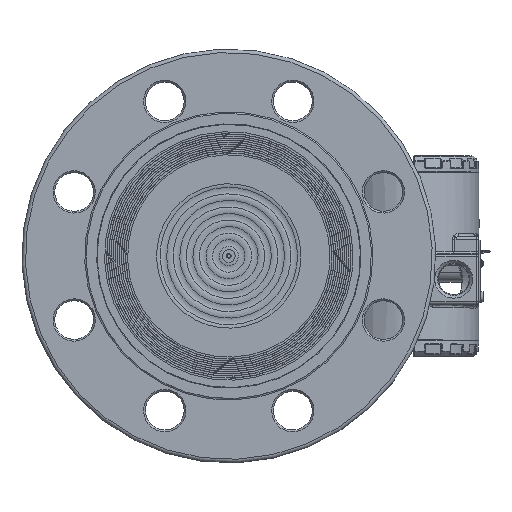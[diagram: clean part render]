
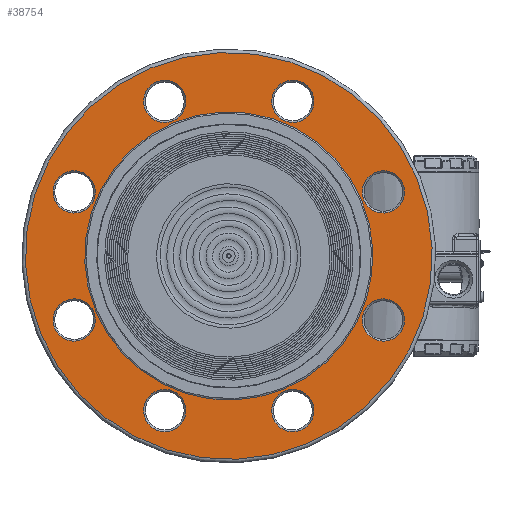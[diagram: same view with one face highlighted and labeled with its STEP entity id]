
A CAD part, top view. The second image highlights one B-rep face of the part: STEP entity #38754.
In plain terms, the highlighted planar face has unit normal (0, 0, 1) as drawn and (-1, 0, 0) by its records, which use the part's own axes.
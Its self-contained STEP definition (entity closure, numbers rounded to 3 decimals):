
#753=FACE_BOUND('',#6589,.T.);
#754=FACE_BOUND('',#6590,.T.);
#755=FACE_BOUND('',#6591,.T.);
#756=FACE_BOUND('',#6592,.T.);
#757=FACE_BOUND('',#6593,.T.);
#758=FACE_BOUND('',#6594,.T.);
#759=FACE_BOUND('',#6595,.T.);
#760=FACE_BOUND('',#6596,.T.);
#761=FACE_BOUND('',#6597,.T.);
#2735=PLANE('',#43057);
#3944=FACE_OUTER_BOUND('',#6588,.T.);
#6588=EDGE_LOOP('',(#29630,#29631));
#6589=EDGE_LOOP('',(#29632));
#6590=EDGE_LOOP('',(#29633));
#6591=EDGE_LOOP('',(#29634));
#6592=EDGE_LOOP('',(#29635));
#6593=EDGE_LOOP('',(#29636,#29637));
#6594=EDGE_LOOP('',(#29638));
#6595=EDGE_LOOP('',(#29639));
#6596=EDGE_LOOP('',(#29640));
#6597=EDGE_LOOP('',(#29641));
#12424=CIRCLE('',#43056,12.);
#12425=CIRCLE('',#43058,115.5);
#12426=CIRCLE('',#43059,115.5);
#12427=CIRCLE('',#43060,12.);
#12428=CIRCLE('',#43061,12.);
#12429=CIRCLE('',#43062,12.);
#12430=CIRCLE('',#43063,12.);
#12431=CIRCLE('',#43064,81.8);
#12432=CIRCLE('',#43065,81.8);
#12433=CIRCLE('',#43066,12.);
#12434=CIRCLE('',#43067,12.);
#12435=CIRCLE('',#43068,12.);
#16915=VERTEX_POINT('',#69073);
#16916=VERTEX_POINT('',#69077);
#16917=VERTEX_POINT('',#69078);
#16918=VERTEX_POINT('',#69081);
#16919=VERTEX_POINT('',#69083);
#16920=VERTEX_POINT('',#69085);
#16921=VERTEX_POINT('',#69087);
#16922=VERTEX_POINT('',#69089);
#16923=VERTEX_POINT('',#69090);
#16924=VERTEX_POINT('',#69093);
#16925=VERTEX_POINT('',#69095);
#16926=VERTEX_POINT('',#69097);
#21394=EDGE_CURVE('',#16915,#16915,#12424,.T.);
#21396=EDGE_CURVE('',#16916,#16917,#12425,.T.);
#21397=EDGE_CURVE('',#16917,#16916,#12426,.T.);
#21398=EDGE_CURVE('',#16918,#16918,#12427,.T.);
#21399=EDGE_CURVE('',#16919,#16919,#12428,.T.);
#21400=EDGE_CURVE('',#16920,#16920,#12429,.T.);
#21401=EDGE_CURVE('',#16921,#16921,#12430,.T.);
#21402=EDGE_CURVE('',#16922,#16923,#12431,.T.);
#21403=EDGE_CURVE('',#16923,#16922,#12432,.T.);
#21404=EDGE_CURVE('',#16924,#16924,#12433,.T.);
#21405=EDGE_CURVE('',#16925,#16925,#12434,.T.);
#21406=EDGE_CURVE('',#16926,#16926,#12435,.T.);
#29630=ORIENTED_EDGE('',*,*,#21396,.F.);
#29631=ORIENTED_EDGE('',*,*,#21397,.F.);
#29632=ORIENTED_EDGE('',*,*,#21398,.F.);
#29633=ORIENTED_EDGE('',*,*,#21399,.F.);
#29634=ORIENTED_EDGE('',*,*,#21400,.F.);
#29635=ORIENTED_EDGE('',*,*,#21401,.F.);
#29636=ORIENTED_EDGE('',*,*,#21402,.T.);
#29637=ORIENTED_EDGE('',*,*,#21403,.T.);
#29638=ORIENTED_EDGE('',*,*,#21404,.F.);
#29639=ORIENTED_EDGE('',*,*,#21405,.F.);
#29640=ORIENTED_EDGE('',*,*,#21406,.F.);
#29641=ORIENTED_EDGE('',*,*,#21394,.F.);
#38754=ADVANCED_FACE('',(#3944,#753,#754,#755,#756,#757,#758,#759,#760,
#761),#2735,.T.);
#43056=AXIS2_PLACEMENT_3D('',#69074,#50989,#50990);
#43057=AXIS2_PLACEMENT_3D('',#69076,#50992,#50993);
#43058=AXIS2_PLACEMENT_3D('',#69079,#50994,#50995);
#43059=AXIS2_PLACEMENT_3D('',#69080,#50996,#50997);
#43060=AXIS2_PLACEMENT_3D('',#69082,#50998,#50999);
#43061=AXIS2_PLACEMENT_3D('',#69084,#51000,#51001);
#43062=AXIS2_PLACEMENT_3D('',#69086,#51002,#51003);
#43063=AXIS2_PLACEMENT_3D('',#69088,#51004,#51005);
#43064=AXIS2_PLACEMENT_3D('',#69091,#51006,#51007);
#43065=AXIS2_PLACEMENT_3D('',#69092,#51008,#51009);
#43066=AXIS2_PLACEMENT_3D('',#69094,#51010,#51011);
#43067=AXIS2_PLACEMENT_3D('',#69096,#51012,#51013);
#43068=AXIS2_PLACEMENT_3D('',#69098,#51014,#51015);
#50989=DIRECTION('center_axis',(-1.,0.,0.));
#50990=DIRECTION('ref_axis',(0.,-0.707,-0.707));
#50992=DIRECTION('center_axis',(-1.,0.,0.));
#50993=DIRECTION('ref_axis',(0.,0.,1.));
#50994=DIRECTION('center_axis',(1.,0.,0.));
#50995=DIRECTION('ref_axis',(0.,1.,0.));
#50996=DIRECTION('center_axis',(1.,0.,0.));
#50997=DIRECTION('ref_axis',(0.,1.,0.));
#50998=DIRECTION('center_axis',(-1.,0.,0.));
#50999=DIRECTION('ref_axis',(0.,-1.,0.));
#51000=DIRECTION('center_axis',(-1.,0.,0.));
#51001=DIRECTION('ref_axis',(0.,0.,1.));
#51002=DIRECTION('center_axis',(-1.,0.,0.));
#51003=DIRECTION('ref_axis',(0.,1.,0.));
#51004=DIRECTION('center_axis',(-1.,0.,0.));
#51005=DIRECTION('ref_axis',(0.,0.,-1.));
#51006=DIRECTION('center_axis',(1.,0.,0.));
#51007=DIRECTION('ref_axis',(0.,1.,0.));
#51008=DIRECTION('center_axis',(1.,0.,0.));
#51009=DIRECTION('ref_axis',(0.,1.,0.));
#51010=DIRECTION('center_axis',(-1.,0.,0.));
#51011=DIRECTION('ref_axis',(0.,0.707,-0.707));
#51012=DIRECTION('center_axis',(-1.,0.,0.));
#51013=DIRECTION('ref_axis',(0.,0.707,0.707));
#51014=DIRECTION('center_axis',(-1.,0.,0.));
#51015=DIRECTION('ref_axis',(0.,-0.707,0.707));
#69073=CARTESIAN_POINT('',(3.,75.66,75.66));
#69074=CARTESIAN_POINT('Origin',(3.,67.175,67.175));
#69076=CARTESIAN_POINT('Origin',(3.,98.65,0.));
#69077=CARTESIAN_POINT('',(3.,115.5,0.));
#69078=CARTESIAN_POINT('',(3.,0.,115.5));
#69079=CARTESIAN_POINT('Origin',(3.,0.,0.));
#69080=CARTESIAN_POINT('Origin',(3.,0.,0.));
#69081=CARTESIAN_POINT('',(3.,107.,0.));
#69082=CARTESIAN_POINT('Origin',(3.,95.,0.));
#69083=CARTESIAN_POINT('',(3.,0.,-107.));
#69084=CARTESIAN_POINT('Origin',(3.,0.,-95.));
#69085=CARTESIAN_POINT('',(3.,-107.,0.));
#69086=CARTESIAN_POINT('Origin',(3.,-95.,0.));
#69087=CARTESIAN_POINT('',(3.,0.,107.));
#69088=CARTESIAN_POINT('Origin',(3.,0.,95.));
#69089=CARTESIAN_POINT('',(3.,81.8,0.));
#69090=CARTESIAN_POINT('',(3.,0.,81.8));
#69091=CARTESIAN_POINT('Origin',(3.,0.,0.));
#69092=CARTESIAN_POINT('Origin',(3.,0.,0.));
#69093=CARTESIAN_POINT('',(3.,-75.66,75.66));
#69094=CARTESIAN_POINT('Origin',(3.,-67.175,67.175));
#69095=CARTESIAN_POINT('',(3.,-75.66,-75.66));
#69096=CARTESIAN_POINT('Origin',(3.,-67.175,-67.175));
#69097=CARTESIAN_POINT('',(3.,75.66,-75.66));
#69098=CARTESIAN_POINT('Origin',(3.,67.175,-67.175));
